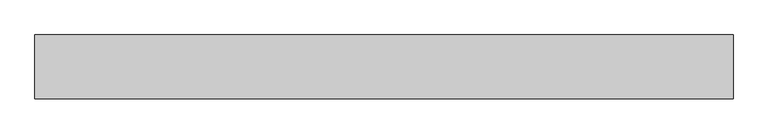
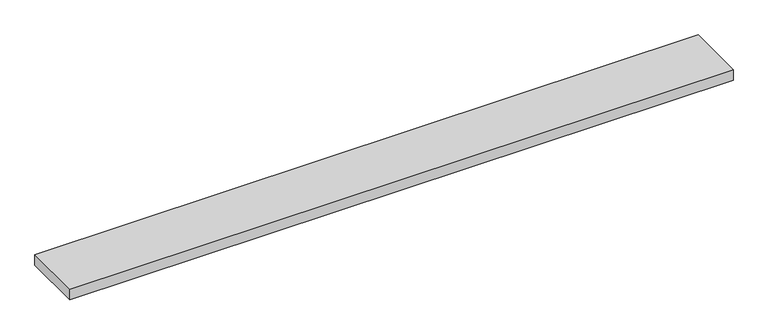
"""IFC4 building model written with IfcOpenShell, lengths in millimetres: proxy geometry, Vita_Решетка : РАП_Алюминиевая продольная."""

from ifc_helpers import new_model, si_unit, frame, origin, place, context, project, spatial, polyline, outline, extrude, source, transform, mapped, element, save


def mechanical_equipment_10a3fbf6(model_context):
    return source(origin(), model_context, "Body", "SweptSolid", [
        extrude(outline(polyline([(-599.0, -112.8), (599.0, -112.8), (599.0, -222.2), (-599.0, -222.2), (-599.0, -112.8)])), frame((0.0, 0.0, 209.83), z_axis=(0.0, 0.0, 1.0), x_axis=(1.0, 0.0, 0.0)), (0.0, 0.0, 1.0), 20.17),
    ])


if __name__ == "__main__":
    model = new_model("IFC4")
    model_context = context("Model", 3, world=origin())
    ifc_project = project(units=[si_unit("LENGTHUNIT", "METRE", prefix="MILLI")], contexts=[model_context])
    site = spatial("IfcSite", under=ifc_project)
    building = spatial("IfcBuilding", under=site)
    placement = place(None, origin())
    mechanical_equipment_shape = mechanical_equipment_10a3fbf6(model_context)
    element("IfcBuildingElementProxy", 1, Name="Vita_Решетка : РАП_Алюминиевая продольная", ObjectType="Vita_Решетка : РАП_Алюминиевая продольная", at=placement, inside=building, context=model_context, shape_type="MappedRepresentation", body=[
        mapped(mechanical_equipment_shape, transform((0.0, 0.0, 0.0), x_axis=(1.0, 0.0, 0.0), y_axis=(0.0, 1.0, 0.0), z_axis=(0.0, 0.0, 1.0))),
    ])
    save(model, "model.ifc")
